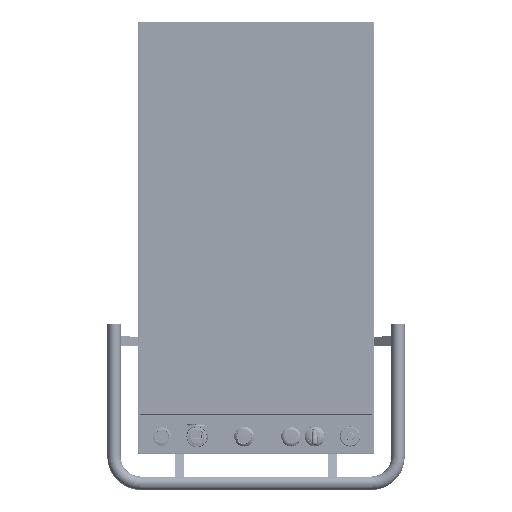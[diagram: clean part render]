
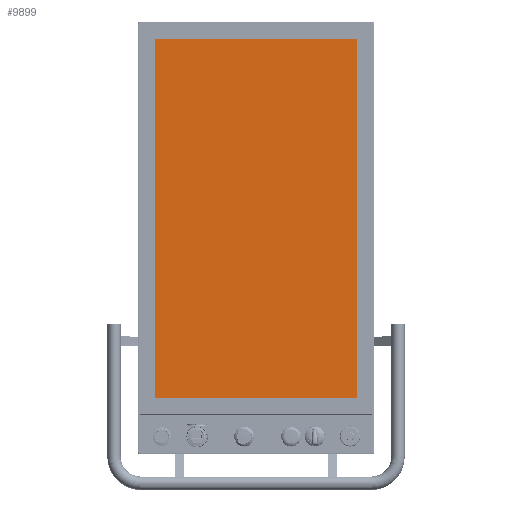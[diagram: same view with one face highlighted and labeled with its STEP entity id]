
A CAD part, top view. The second image highlights one B-rep face of the part: STEP entity #9899.
In plain terms, the highlighted planar face has unit normal (0, 0, 1) as drawn and (0, 1, 0) by its records, which use the part's own axes.
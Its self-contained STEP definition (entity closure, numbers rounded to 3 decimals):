
#3348 = EDGE_CURVE ( 'NONE', #455014, #230725, #464184, .T. ) ;
#9899 = ADVANCED_FACE ( 'NONE', ( #87939 ), #353785, .T. ) ;
#24346 = EDGE_LOOP ( 'NONE', ( #36267, #213757, #379093, #75641 ) ) ;
#26131 = VECTOR ( 'NONE', #140922, 1000. ) ;
#28344 = CARTESIAN_POINT ( 'NONE',  ( 0., 2.7, 0. ) ) ;
#36267 = ORIENTED_EDGE ( 'NONE', *, *, #3348, .T. ) ;
#75641 = ORIENTED_EDGE ( 'NONE', *, *, #335538, .T. ) ;
#75993 = VERTEX_POINT ( 'NONE', #440525 ) ;
#77679 = CARTESIAN_POINT ( 'NONE',  ( -266.88, 2.7, -150.645 ) ) ;
#87939 = FACE_OUTER_BOUND ( 'NONE', #24346, .T. ) ;
#129061 = VECTOR ( 'NONE', #259209, 1000. ) ;
#140922 = DIRECTION ( 'NONE',  ( -1., 0., 0. ) ) ;
#144507 = CARTESIAN_POINT ( 'NONE',  ( -266.88, 2.7, 150.645 ) ) ;
#147904 = VECTOR ( 'NONE', #278870, 1000. ) ;
#160019 = VECTOR ( 'NONE', #288179, 1000. ) ;
#164104 = EDGE_CURVE ( 'NONE', #390822, #75993, #175232, .T. ) ;
#172226 = DIRECTION ( 'NONE',  ( 0., 0., 1. ) ) ;
#175232 = LINE ( 'NONE', #144507, #160019 ) ;
#213757 = ORIENTED_EDGE ( 'NONE', *, *, #330098, .T. ) ;
#230725 = VERTEX_POINT ( 'NONE', #320815 ) ;
#259209 = DIRECTION ( 'NONE',  ( 0., 0., 1. ) ) ;
#271160 = AXIS2_PLACEMENT_3D ( 'NONE', #28344, #451382, #172226 ) ;
#278870 = DIRECTION ( 'NONE',  ( 0., 0., -1. ) ) ;
#288179 = DIRECTION ( 'NONE',  ( 1., 0., 0. ) ) ;
#301947 = CARTESIAN_POINT ( 'NONE',  ( 266.88, 2.7, -150.645 ) ) ;
#309674 = CARTESIAN_POINT ( 'NONE',  ( 266.88, 2.7, 150.645 ) ) ;
#320815 = CARTESIAN_POINT ( 'NONE',  ( -266.88, 2.7, -150.645 ) ) ;
#330024 = LINE ( 'NONE', #77679, #129061 ) ;
#330098 = EDGE_CURVE ( 'NONE', #230725, #390822, #330024, .T. ) ;
#335538 = EDGE_CURVE ( 'NONE', #75993, #455014, #418376, .T. ) ;
#353785 = PLANE ( 'NONE',  #271160 ) ;
#379093 = ORIENTED_EDGE ( 'NONE', *, *, #164104, .T. ) ;
#390822 = VERTEX_POINT ( 'NONE', #405048 ) ;
#405048 = CARTESIAN_POINT ( 'NONE',  ( -266.88, 2.7, 150.645 ) ) ;
#418376 = LINE ( 'NONE', #309674, #147904 ) ;
#440525 = CARTESIAN_POINT ( 'NONE',  ( 266.88, 2.7, 150.645 ) ) ;
#451382 = DIRECTION ( 'NONE',  ( 0., 1., 0. ) ) ;
#455014 = VERTEX_POINT ( 'NONE', #301947 ) ;
#459509 = CARTESIAN_POINT ( 'NONE',  ( 266.88, 2.7, -150.645 ) ) ;
#464184 = LINE ( 'NONE', #459509, #26131 ) ;
